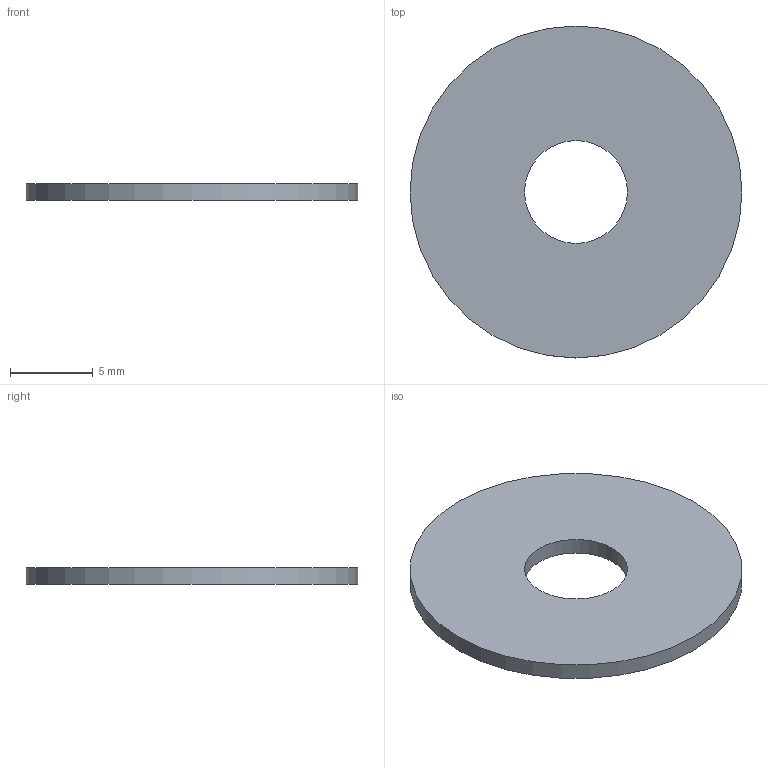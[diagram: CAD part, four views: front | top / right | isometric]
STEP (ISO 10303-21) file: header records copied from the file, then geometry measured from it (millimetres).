
FILE_DESCRIPTION (( 'STEP AP214' ), '1' );
FILE_NAME ('F12708.step', '2024-12-03T16:15:15', ( '' ), ( '' ), 'SwSTEP 2.0', 'SolidWorks 2023', '' );
FILE_SCHEMA (( 'AUTOMOTIVE_DESIGN' ));
Length unit declared in the file: millimetre
Products named in the file (1): F12708
Bounding box: 20 x 20 x 1 mm (x, y, z)
Volume: 284 mm3; surface area: 650.2 mm2
Topology: 1 solids, 1 shells, 4 faces, 6 edges, 4 vertices
Faces by surface type: plane 2, cylinder 2
Full cylindrical faces by diameter (mm): 6.2 x1, 20 x1
Entity records: 111 total; most frequent: DIRECTION 18, CARTESIAN_POINT 13, AXIS2_PLACEMENT_3D 9, ORIENTED_EDGE 8, EDGE_LOOP 8, FACE_OUTER_BOUND 6, CIRCLE 4, EDGE_CURVE 4
